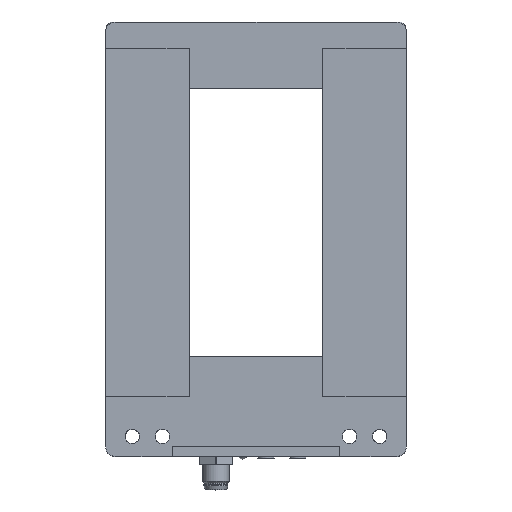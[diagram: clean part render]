
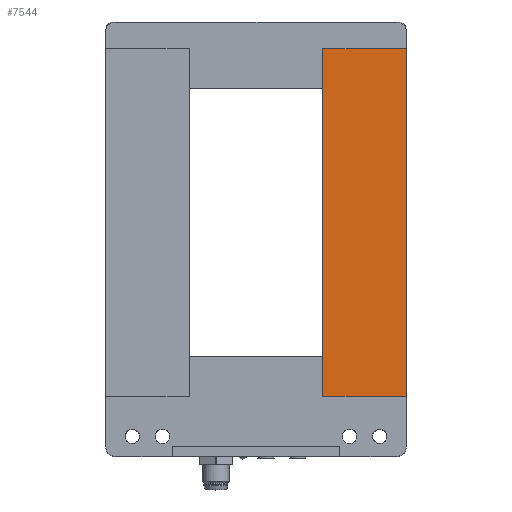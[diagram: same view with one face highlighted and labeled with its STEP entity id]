
A CAD part, top view. The second image highlights one B-rep face of the part: STEP entity #7544.
In plain terms, the highlighted planar face has unit normal (0, 0, 1).
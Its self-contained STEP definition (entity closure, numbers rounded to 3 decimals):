
#589=LINE($,#11947,#1191);
#617=LINE($,#12032,#1219);
#660=LINE($,#12218,#1262);
#662=LINE($,#12224,#1264);
#1191=VECTOR($,#9660,25.);
#1219=VECTOR($,#9738,104.);
#1262=VECTOR($,#9897,25.);
#1264=VECTOR($,#9905,104.);
#1694=PLANE($,#8266);
#2293=FACE_OUTER_BOUND($,#2911,.T.);
#2911=EDGE_LOOP($,(#6251,#6252,#6253,#6254));
#3831=VERTEX_POINT($,#11944);
#3832=VERTEX_POINT($,#11946);
#3864=VERTEX_POINT($,#12030);
#3907=VERTEX_POINT($,#12216);
#4632=EDGE_CURVE($,#3832,#3831,#589,.T.);
#4673=EDGE_CURVE($,#3831,#3864,#617,.T.);
#4745=EDGE_CURVE($,#3864,#3907,#660,.T.);
#4748=EDGE_CURVE($,#3907,#3832,#662,.T.);
#6251=ORIENTED_EDGE($,*,*,#4632,.T.);
#6252=ORIENTED_EDGE($,*,*,#4673,.T.);
#6253=ORIENTED_EDGE($,*,*,#4745,.T.);
#6254=ORIENTED_EDGE($,*,*,#4748,.T.);
#7544=ADVANCED_FACE($,(#2293),#1694,.T.);
#8266=AXIS2_PLACEMENT_3D($,#12225,#9906,#9907);
#9660=DIRECTION($,(-1.,0.,0.));
#9738=DIRECTION($,(0.,-1.,0.));
#9897=DIRECTION($,(1.,0.,0.));
#9905=DIRECTION($,(0.,1.,0.));
#9906=DIRECTION('center_axis',(0.,0.,
1.));
#9907=DIRECTION('ref_axis',(0.,-1.,0.));
#11944=CARTESIAN_POINT('',(65.,92.,0.));
#11946=CARTESIAN_POINT('',(90.,92.,0.));
#11947=CARTESIAN_POINT($,(90.,92.,0.));
#12030=CARTESIAN_POINT('',(65.,-12.,0.));
#12032=CARTESIAN_POINT($,(65.,92.,0.));
#12216=CARTESIAN_POINT('',(90.,-12.,0.));
#12218=CARTESIAN_POINT($,(65.,-12.,0.));
#12224=CARTESIAN_POINT($,(90.,-12.,0.));
#12225=CARTESIAN_POINT('Origin',(65.,92.,0.));
